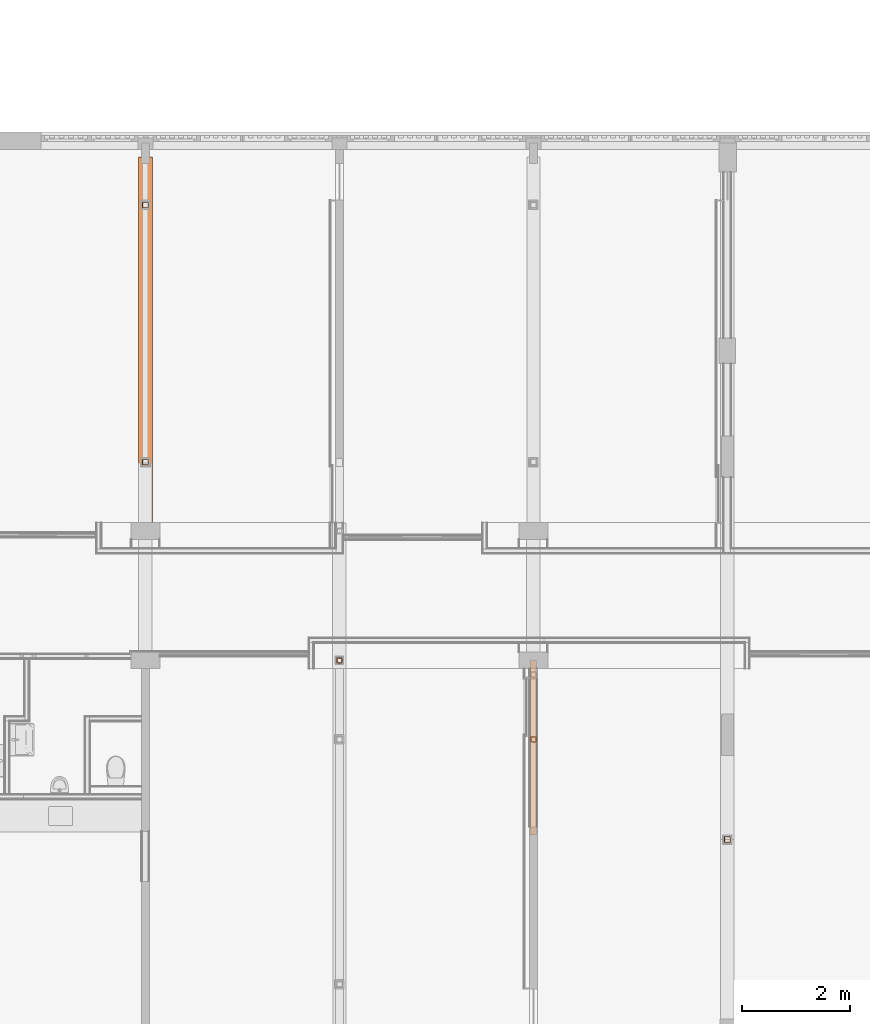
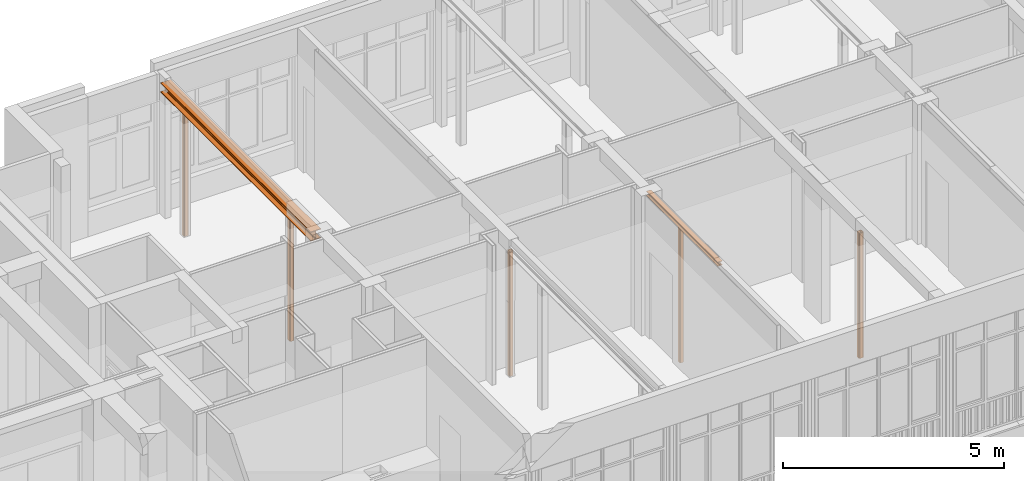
# One storey, part 123 of 135: 7 proxies.
"""IFC2X3 building model written with IfcOpenShell, lengths in millimetres."""

from ifc_helpers import new_model, entity, si_unit, converted_unit, derived_unit, money_unit, direction, frame, origin_with_axes, place, context, subcontext, project, spatial, faceted_brep, source, transform, mapped, material, type_object, type_shapes, element, save


model = new_model("IFC2X3")

# Units and contexts
model_context = context("Model", 3, precision=0.01, world=origin_with_axes(), true_north=direction((0.0, 1.0)))
body_context = subcontext(model_context, "Body", "Model", "MODEL_VIEW")
ifc_project = project(units=[si_unit("LENGTHUNIT", "METRE", prefix="MILLI"), si_unit("AREAUNIT", "SQUARE_METRE"), si_unit("VOLUMEUNIT", "CUBIC_METRE"), converted_unit("PLANEANGLEUNIT", "DEGREE", entity("IfcPlaneAngleMeasure", 0.0174532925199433), si_unit("PLANEANGLEUNIT", "RADIAN"), dimensions=[0, 0, 0, 0, 0, 0, 0]), money_unit("EUR"), converted_unit("TIMEUNIT", "Year", entity("IfcTimeMeasure", 31557600.0), si_unit("TIMEUNIT", "SECOND"), dimensions=[0, 0, 1, 0, 0, 0, 0]), si_unit("MASSUNIT", "GRAM", prefix="KILO"), si_unit("THERMODYNAMICTEMPERATUREUNIT", "DEGREE_CELSIUS"), si_unit("LUMINOUSINTENSITYUNIT", "LUMEN"), si_unit("ENERGYUNIT", "JOULE", prefix="MEGA"), derived_unit("THERMALCONDUCTANCEUNIT", [(si_unit("POWERUNIT", "WATT"), 1), (si_unit("LENGTHUNIT", "METRE"), -1), (si_unit("THERMODYNAMICTEMPERATUREUNIT", "KELVIN"), -1)]), derived_unit("SPECIFICHEATCAPACITYUNIT", [(si_unit("ENERGYUNIT", "JOULE"), 1), (si_unit("MASSUNIT", "GRAM", prefix="KILO"), -1), (si_unit("THERMODYNAMICTEMPERATUREUNIT", "KELVIN"), -1)]), derived_unit("MASSDENSITYUNIT", [(si_unit("MASSUNIT", "GRAM", prefix="KILO"), 1), (si_unit("VOLUMEUNIT", "CUBIC_METRE"), -1)])], contexts=[model_context])

# Site, building, storey
site_placement = place(None, origin_with_axes())
site = spatial("IfcSite", under=ifc_project, at=site_placement, Name="Site", CompositionType="ELEMENT")
building_placement = place(site_placement, origin_with_axes())
building = spatial("IfcBuilding", under=site, at=building_placement, Name="Naam gebouw", CompositionType="ELEMENT")
storey_placement = place(building_placement, origin_with_axes())
storey = spatial("IfcBuildingStorey", under=building, at=storey_placement, Name="Begane grond N", CompositionType="ELEMENT", Elevation=0.0)

# Proxies
ifc_material = material(Name="Metaal - Staal AFW")
building_element_proxy_type_1 = type_object("IfcBuildingElementProxyType", Name="Buis vk warmgew kolom 27", PredefinedType="NOTDEFINED")
shared_shape_1 = source(origin_with_axes(), body_context, "Body", "Brep", [
    faceted_brep([(34.0, -50.0, 0.0), (34.0, -50.0, 3439.999999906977), (-34.0, -50.0, 3439.999999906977), (-34.0, -50.0, 0.0), (45.31370849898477, -45.31370849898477, 0.0), (45.31370849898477, -45.31370849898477, 3439.999999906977), (50.0, -34.0, 3439.999999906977), (50.0, 34.0, 3439.999999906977), (45.31370849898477, 45.31370849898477, 3439.999999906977), (34.0, 50.0, 3439.999999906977), (-34.0, 50.0, 3439.999999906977), (-45.31370849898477, 45.31370849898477, 3439.999999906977), (-50.0, 34.0, 3439.999999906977), (-50.0, -34.0, 3439.999999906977), (-45.31370849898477, -45.31370849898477, 3439.999999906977), (34.00000000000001, -41.99999999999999, 3439.999999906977), (-34.0, -42.0, 3439.999999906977), (-39.65685424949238, -39.65685424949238, 3439.999999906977), (-41.99999999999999, -34.00000000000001, 3439.999999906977), (-42.0, 34.0, 3439.999999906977), (-39.65685424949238, 39.65685424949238, 3439.999999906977), (-34.00000000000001, 41.99999999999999, 3439.999999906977), (34.0, 42.0, 3439.999999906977), (39.65685424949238, 39.65685424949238, 3439.999999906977), (41.99999999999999, 34.00000000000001, 3439.999999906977), (42.0, -34.0, 3439.999999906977), (39.65685424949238, -39.65685424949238, 3439.999999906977), (-45.31370849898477, -45.31370849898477, 0.0), (-50.0, -34.0, 0.0), (-50.0, 34.0, 0.0), (-45.31370849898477, 45.31370849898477, 0.0), (-34.0, 50.0, 0.0), (34.0, 50.0, 0.0), (45.31370849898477, 45.31370849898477, 0.0), (50.0, 34.0, 0.0), (50.0, -34.0, 0.0), (34.00000000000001, -41.99999999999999, 0.0), (39.65685424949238, -39.65685424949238, 0.0), (42.0, -34.0, 0.0), (41.99999999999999, 34.00000000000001, 0.0), (39.65685424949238, 39.65685424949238, 0.0), (34.0, 42.0, 0.0), (-34.00000000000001, 41.99999999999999, 0.0), (-39.65685424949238, 39.65685424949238, 0.0), (-42.0, 34.0, 0.0), (-41.99999999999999, -34.00000000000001, 0.0), (-39.65685424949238, -39.65685424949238, 0.0), (-34.0, -42.0, 0.0)], [[[0, 1, 2, 3]], [[4, 5, 1, 0]], [[1, 5, 6, 7, 8, 9, 10, 11, 12, 13, 14, 2], [15, 16, 17, 18, 19, 20, 21, 22, 23, 24, 25, 26]], [[3, 2, 14, 27]], [[0, 3, 27, 28, 29, 30, 31, 32, 33, 34, 35, 4], [36, 37, 38, 39, 40, 41, 42, 43, 44, 45, 46, 47]], [[35, 6, 5, 4]], [[34, 7, 6, 35]], [[33, 8, 7, 34]], [[32, 9, 8, 33]], [[31, 10, 9, 32]], [[30, 11, 10, 31]], [[29, 12, 11, 30]], [[28, 13, 12, 29]], [[27, 14, 13, 28]], [[47, 16, 15, 36]], [[46, 17, 16, 47]], [[45, 18, 17, 46]], [[44, 19, 18, 45]], [[43, 20, 19, 44]], [[42, 21, 20, 43]], [[41, 22, 21, 42]], [[40, 23, 22, 41]], [[39, 24, 23, 40]], [[38, 25, 24, 39]], [[37, 26, 25, 38]], [[36, 15, 26, 37]]]),
])
proxy_1_placement = place(storey_placement, frame((39599.99999999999, 18025.91242510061, 0.0), z_axis=(0.0, 0.0, 1.0), x_axis=(0.0, -1.0, 0.0)))
element("IfcBuildingElementProxy", 1, at=proxy_1_placement, inside=storey, type_object=building_element_proxy_type_1, material=ifc_material, Name="_Boom-x", context=body_context, shape_type="MappedRepresentation", body=[
    mapped(shared_shape_1, transform((0.0, 0.0, 0.0))),
])
shared_shape_2 = source(origin_with_axes(), body_context, "Body", "Brep", [
    faceted_brep([(34.0, -50.0, 0.0), (34.0, -50.0, 3716.047681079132), (-34.0, -50.0, 3716.047681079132), (-34.0, -50.0, 0.0), (45.31370849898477, -45.31370849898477, 0.0), (45.31370849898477, -45.31370849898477, 3716.047681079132), (50.0, -34.0, 3716.047681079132), (50.0, 34.0, 3716.047681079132), (45.31370849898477, 45.31370849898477, 3716.047681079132), (34.0, 50.0, 3716.047681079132), (-34.0, 50.0, 3716.047681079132), (-45.31370849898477, 45.31370849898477, 3716.047681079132), (-50.0, 34.0, 3716.047681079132), (-50.0, -34.0, 3716.047681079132), (-45.31370849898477, -45.31370849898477, 3716.047681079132), (34.00000000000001, -41.99999999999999, 3716.047681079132), (-34.0, -42.0, 3716.047681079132), (-39.65685424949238, -39.65685424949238, 3716.047681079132), (-41.99999999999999, -34.00000000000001, 3716.047681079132), (-42.0, 34.0, 3716.047681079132), (-39.65685424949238, 39.65685424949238, 3716.047681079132), (-34.00000000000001, 41.99999999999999, 3716.047681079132), (34.0, 42.0, 3716.047681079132), (39.65685424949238, 39.65685424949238, 3716.047681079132), (41.99999999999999, 34.00000000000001, 3716.047681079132), (42.0, -34.0, 3716.047681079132), (39.65685424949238, -39.65685424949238, 3716.047681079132), (-45.31370849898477, -45.31370849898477, 0.0), (-50.0, -34.0, 0.0), (-50.0, 34.0, 0.0), (-45.31370849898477, 45.31370849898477, 0.0), (-34.0, 50.0, 0.0), (34.0, 50.0, 0.0), (45.31370849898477, 45.31370849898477, 0.0), (50.0, 34.0, 0.0), (50.0, -34.0, 0.0), (34.00000000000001, -41.99999999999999, 0.0), (39.65685424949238, -39.65685424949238, 0.0), (42.0, -34.0, 0.0), (41.99999999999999, 34.00000000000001, 0.0), (39.65685424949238, 39.65685424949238, 0.0), (34.0, 42.0, 0.0), (-34.00000000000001, 41.99999999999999, 0.0), (-39.65685424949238, 39.65685424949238, 0.0), (-42.0, 34.0, 0.0), (-41.99999999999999, -34.00000000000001, 0.0), (-39.65685424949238, -39.65685424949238, 0.0), (-34.0, -42.0, 0.0)], [[[0, 1, 2, 3]], [[4, 5, 1, 0]], [[1, 5, 6, 7, 8, 9, 10, 11, 12, 13, 14, 2], [15, 16, 17, 18, 19, 20, 21, 22, 23, 24, 25, 26]], [[3, 2, 14, 27]], [[0, 3, 27, 28, 29, 30, 31, 32, 33, 34, 35, 4], [36, 37, 38, 39, 40, 41, 42, 43, 44, 45, 46, 47]], [[35, 6, 5, 4]], [[34, 7, 6, 35]], [[33, 8, 7, 34]], [[32, 9, 8, 33]], [[31, 10, 9, 32]], [[30, 11, 10, 31]], [[29, 12, 11, 30]], [[28, 13, 12, 29]], [[27, 14, 13, 28]], [[47, 16, 15, 36]], [[46, 17, 16, 47]], [[45, 18, 17, 46]], [[44, 19, 18, 45]], [[43, 20, 19, 44]], [[42, 21, 20, 43]], [[41, 22, 21, 42]], [[40, 23, 22, 41]], [[39, 24, 23, 40]], [[38, 25, 24, 39]], [[37, 26, 25, 38]], [[36, 15, 26, 37]]]),
])
proxy_2_placement = place(storey_placement, frame((43200.0, 16560.91242510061, 0.0), z_axis=(0.0, 0.0, 1.0), x_axis=(0.0, -1.0, 0.0)))
element("IfcBuildingElementProxy", 2, at=proxy_2_placement, inside=storey, type_object=building_element_proxy_type_1, material=ifc_material, Name="_Boom-x", context=body_context, shape_type="MappedRepresentation", body=[
    mapped(shared_shape_2, transform((0.0, 0.0, 0.0))),
])
shared_shape_3 = source(origin_with_axes(), body_context, "Body", "Brep", [
    faceted_brep([(39.99999999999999, -60.0, 0.0), (39.99999999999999, -60.0, 3450.000000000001), (-39.99999999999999, -60.0, 3450.000000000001), (-39.99999999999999, -60.0, 0.0), (54.14213562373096, -54.14213562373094, 0.0), (54.14213562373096, -54.14213562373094, 3450.000000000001), (60.0, -39.99999999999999, 3450.000000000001), (60.0, 39.99999999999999, 3450.000000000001), (54.14213562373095, 54.14213562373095, 3450.000000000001), (39.99999999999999, 60.0, 3450.000000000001), (-39.99999999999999, 60.0, 3450.000000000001), (-54.14213562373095, 54.14213562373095, 3450.000000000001), (-60.0, 39.99999999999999, 3450.000000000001), (-60.0, -39.99999999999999, 3450.000000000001), (-54.14213562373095, -54.14213562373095, 3450.000000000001), (40.0, -49.99999999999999, 3450.000000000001), (-39.99999999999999, -49.99999999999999, 3450.000000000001), (-47.07106781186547, -47.07106781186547, 3450.000000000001), (-49.99999999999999, -40.0, 3450.000000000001), (-49.99999999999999, 39.99999999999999, 3450.000000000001), (-47.07106781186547, 47.07106781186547, 3450.000000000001), (-40.0, 49.99999999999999, 3450.000000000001), (39.99999999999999, 49.99999999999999, 3450.000000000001), (47.07106781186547, 47.07106781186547, 3450.000000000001), (49.99999999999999, 40.0, 3450.000000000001), (49.99999999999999, -39.99999999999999, 3450.000000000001), (47.07106781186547, -47.07106781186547, 3450.000000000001), (-54.14213562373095, -54.14213562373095, 0.0), (-60.0, -39.99999999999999, 0.0), (-60.0, 39.99999999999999, 0.0), (-54.14213562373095, 54.14213562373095, 0.0), (-39.99999999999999, 60.0, 0.0), (39.99999999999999, 60.0, 0.0), (54.14213562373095, 54.14213562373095, 0.0), (60.0, 39.99999999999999, 0.0), (60.0, -39.99999999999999, 0.0), (40.0, -49.99999999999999, 0.0), (47.07106781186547, -47.07106781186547, 0.0), (49.99999999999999, -39.99999999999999, 0.0), (49.99999999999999, 40.0, 0.0), (47.07106781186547, 47.07106781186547, 0.0), (39.99999999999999, 49.99999999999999, 0.0), (-40.0, 49.99999999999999, 0.0), (-47.07106781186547, 47.07106781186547, 0.0), (-49.99999999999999, 39.99999999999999, 0.0), (-49.99999999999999, -40.0, 0.0), (-47.07106781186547, -47.07106781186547, 0.0), (-39.99999999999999, -49.99999999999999, 0.0)], [[[0, 1, 2, 3]], [[4, 5, 1, 0]], [[1, 5, 6, 7, 8, 9, 10, 11, 12, 13, 14, 2], [15, 16, 17, 18, 19, 20, 21, 22, 23, 24, 25, 26]], [[3, 2, 14, 27]], [[0, 3, 27, 28, 29, 30, 31, 32, 33, 34, 35, 4], [36, 37, 38, 39, 40, 41, 42, 43, 44, 45, 46, 47]], [[35, 6, 5, 4]], [[34, 7, 6, 35]], [[33, 8, 7, 34]], [[32, 9, 8, 33]], [[31, 10, 9, 32]], [[30, 11, 10, 31]], [[29, 12, 11, 30]], [[28, 13, 12, 29]], [[27, 14, 13, 28]], [[47, 16, 15, 36]], [[46, 17, 16, 47]], [[45, 18, 17, 46]], [[44, 19, 18, 45]], [[43, 20, 19, 44]], [[42, 21, 20, 43]], [[41, 22, 21, 42]], [[40, 23, 22, 41]], [[39, 24, 23, 40]], [[38, 25, 24, 39]], [[37, 26, 25, 38]], [[36, 15, 26, 37]]]),
])
proxy_3_placement = place(storey_placement, frame((46800.00000000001, 14699.30701541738, 0.0), z_axis=(0.0, 0.0, 1.0), x_axis=(0.0, -1.0, 0.0)))
element("IfcBuildingElementProxy", 3, at=proxy_3_placement, inside=storey, type_object=building_element_proxy_type_1, material=ifc_material, Name="_Boom-x", context=body_context, shape_type="MappedRepresentation", body=[
    mapped(shared_shape_3, transform((0.0, 0.0, 0.0))),
])
building_element_proxy_type_2 = type_object("IfcBuildingElementProxyType", Name="HEB balk 27", PredefinedType="NOTDEFINED")
shared_shape_4 = source(origin_with_axes(), body_context, "Body", "Brep", [
    faceted_brep([(0.0, -130.0, 0.0), (-6785.0, -130.0000000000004, 0.0), (-6785.0, 129.9999999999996, 0.0), (0.0, 130.0, 0.0), (0.0, -130.0, 17.5), (-6785.0, -130.0000000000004, 17.50000000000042), (-6785.0, -29.00000000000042, 17.50000000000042), (-6785.0, -17.00000000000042, 20.71539030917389), (-6785.0, -8.21539030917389, 29.50000000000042), (-6785.0, -5.000000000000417, 41.50000000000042), (-6785.0, -5.000000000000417, 218.5000000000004), (-6785.0, -8.215390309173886, 230.5000000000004), (-6785.0, -17.00000000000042, 239.284609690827), (-6785.0, -29.00000000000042, 242.5000000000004), (-6785.0, -130.0000000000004, 242.5000000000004), (-6785.0, -130.0000000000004, 260.0000000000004), (-6785.0, 129.9999999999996, 260.0000000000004), (-6785.0, 129.9999999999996, 242.5000000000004), (-6785.0, 28.99999999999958, 242.5000000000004), (-6785.0, 16.99999999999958, 239.284609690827), (-6785.0, 8.215390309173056, 230.5000000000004), (-6785.0, 4.999999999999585, 218.5000000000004), (-6785.0, 4.999999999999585, 41.50000000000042), (-6785.0, 8.21539030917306, 29.50000000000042), (-6785.0, 16.99999999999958, 20.71539030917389), (-6785.0, 28.99999999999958, 17.50000000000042), (-6785.0, 129.9999999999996, 17.50000000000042), (0.0, 130.0, 17.5), (0.0, 29.0, 17.5), (0.0, 17.0, 20.71539030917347), (0.0, 8.215390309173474, 29.5), (0.0, 5.000000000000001, 41.5), (0.0, 5.000000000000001, 218.5), (0.0, 8.215390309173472, 230.5), (0.0, 17.0, 239.2846096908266), (0.0, 29.0, 242.5), (0.0, 130.0, 242.5), (0.0, 130.0, 260.0), (0.0, -130.0, 260.0), (0.0, -130.0, 242.5), (0.0, -29.0, 242.5), (0.0, -17.0, 239.2846096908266), (0.0, -8.215390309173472, 230.5), (0.0, -5.000000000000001, 218.5), (0.0, -5.000000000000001, 41.5), (0.0, -8.215390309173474, 29.5), (0.0, -17.0, 20.71539030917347), (0.0, -29.0, 17.5)], [[[0, 1, 2, 3]], [[4, 5, 1, 0]], [[1, 5, 6, 7, 8, 9, 10, 11, 12, 13, 14, 15, 16, 17, 18, 19, 20, 21, 22, 23, 24, 25, 26, 2]], [[3, 2, 26, 27]], [[0, 3, 27, 28, 29, 30, 31, 32, 33, 34, 35, 36, 37, 38, 39, 40, 41, 42, 43, 44, 45, 46, 47, 4]], [[47, 6, 5, 4]], [[46, 7, 6, 47]], [[45, 8, 7, 46]], [[44, 9, 8, 45]], [[43, 10, 9, 44]], [[42, 11, 10, 43]], [[41, 12, 11, 42]], [[40, 13, 12, 41]], [[39, 14, 13, 40]], [[38, 15, 14, 39]], [[37, 16, 15, 38]], [[36, 17, 16, 37]], [[35, 18, 17, 36]], [[34, 19, 18, 35]], [[33, 20, 19, 34]], [[32, 21, 20, 33]], [[31, 22, 21, 32]], [[30, 23, 22, 31]], [[29, 24, 23, 30]], [[28, 25, 24, 29]], [[27, 26, 25, 28]]]),
])
type_shapes(building_element_proxy_type_2, [shared_shape_4])
proxy_4_placement = place(storey_placement, frame((35999.99999999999, 20580.91242510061, 3439.999999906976), z_axis=(0.0, 0.0, 1.0), x_axis=(0.0, -1.0, 0.0)))
element("IfcBuildingElementProxy", 4, at=proxy_4_placement, inside=storey, type_object=building_element_proxy_type_2, material=ifc_material, Name="_Boom-x", context=body_context, shape_type="MappedRepresentation", body=[
    mapped(shared_shape_4, transform((0.0, 0.0, 0.0))),
])
building_element_proxy_type_3 = type_object("IfcBuildingElementProxyType", Name="HEA balk 27", PredefinedType="NOTDEFINED")
shared_shape_5 = source(origin_with_axes(), body_context, "Body", "Brep", [
    faceted_brep([(0.0, -60.0, 0.0), (-3234.000000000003, -60.0000000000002, 0.0), (-3234.000000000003, 59.99999999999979, 0.0), (0.0, 60.0, 0.0), (0.0, -60.0, 8.0), (-3234.000000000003, -60.0000000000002, 8.000000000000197), (-3234.000000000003, -14.5000000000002, 8.000000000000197), (-3234.000000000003, -8.500000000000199, 9.607695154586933), (-3234.000000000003, -4.107695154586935, 14.0000000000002), (-3234.000000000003, -2.500000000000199, 20.0000000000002), (-3234.000000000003, -2.500000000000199, 94.00000000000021), (-3234.000000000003, -4.107695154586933, 100.0000000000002), (-3234.000000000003, -8.500000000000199, 104.3923048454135), (-3234.000000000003, -14.5000000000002, 106.0000000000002), (-3234.000000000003, -60.0000000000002, 106.0000000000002), (-3234.000000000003, -60.0000000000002, 114.0000000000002), (-3234.000000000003, 59.99999999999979, 114.0000000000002), (-3234.000000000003, 59.99999999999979, 106.0000000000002), (-3234.000000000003, 14.4999999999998, 106.0000000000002), (-3234.000000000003, 8.499999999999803, 104.3923048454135), (-3234.000000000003, 4.107695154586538, 100.0000000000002), (-3234.000000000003, 2.499999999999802, 94.00000000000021), (-3234.000000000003, 2.499999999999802, 20.0000000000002), (-3234.000000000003, 4.10769515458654, 14.0000000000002), (-3234.000000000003, 8.499999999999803, 9.607695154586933), (-3234.000000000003, 14.4999999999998, 8.000000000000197), (-3234.000000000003, 59.99999999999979, 8.000000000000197), (0.0, 60.0, 8.0), (0.0, 14.5, 8.0), (0.0, 8.5, 9.607695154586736), (0.0, 4.107695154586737, 14.0), (0.0, 2.5, 20.0), (0.0, 2.5, 94.00000000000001), (0.0, 4.107695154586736, 100.0), (0.0, 8.5, 104.3923048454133), (0.0, 14.5, 106.0), (0.0, 60.0, 106.0), (0.0, 60.0, 114.0), (0.0, -60.0, 114.0), (0.0, -60.0, 106.0), (0.0, -14.5, 106.0), (0.0, -8.5, 104.3923048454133), (0.0, -4.107695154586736, 100.0), (0.0, -2.5, 94.00000000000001), (0.0, -2.5, 20.0), (0.0, -4.107695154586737, 14.0), (0.0, -8.5, 9.607695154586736), (0.0, -14.5, 8.0)], [[[0, 1, 2, 3]], [[4, 5, 1, 0]], [[1, 5, 6, 7, 8, 9, 10, 11, 12, 13, 14, 15, 16, 17, 18, 19, 20, 21, 22, 23, 24, 25, 26, 2]], [[3, 2, 26, 27]], [[0, 3, 27, 28, 29, 30, 31, 32, 33, 34, 35, 36, 37, 38, 39, 40, 41, 42, 43, 44, 45, 46, 47, 4]], [[47, 6, 5, 4]], [[46, 7, 6, 47]], [[45, 8, 7, 46]], [[44, 9, 8, 45]], [[43, 10, 9, 44]], [[42, 11, 10, 43]], [[41, 12, 11, 42]], [[40, 13, 12, 41]], [[39, 14, 13, 40]], [[38, 15, 14, 39]], [[37, 16, 15, 38]], [[36, 17, 16, 37]], [[35, 18, 17, 36]], [[34, 19, 18, 35]], [[33, 20, 19, 34]], [[32, 21, 20, 33]], [[31, 22, 21, 32]], [[30, 23, 22, 31]], [[29, 24, 23, 30]], [[28, 25, 24, 29]], [[27, 26, 25, 28]]]),
])
type_shapes(building_element_proxy_type_3, [shared_shape_5])
proxy_5_placement = place(storey_placement, frame((43200.0, 14786.9124251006, 3716.047681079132), z_axis=(0.0, 0.0, 1.0), x_axis=(0.0, -1.0, 0.0)))
element("IfcBuildingElementProxy", 5, at=proxy_5_placement, inside=storey, type_object=building_element_proxy_type_3, material=ifc_material, Name="_Boom-x", context=body_context, shape_type="MappedRepresentation", body=[
    mapped(shared_shape_5, transform((0.0, 0.0, 0.0))),
])
shared_shape_6 = source(origin_with_axes(), body_context, "Body", "Brep", [
    faceted_brep([(39.99999999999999, -60.0, 0.0), (39.99999999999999, -60.0, 3439.999999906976), (-39.99999999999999, -60.0, 3439.999999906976), (-39.99999999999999, -60.0, 0.0), (54.14213562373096, -54.14213562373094, 0.0), (54.14213562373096, -54.14213562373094, 3439.999999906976), (60.0, -39.99999999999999, 3439.999999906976), (60.0, 39.99999999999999, 3439.999999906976), (54.14213562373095, 54.14213562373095, 3439.999999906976), (39.99999999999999, 60.0, 3439.999999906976), (-39.99999999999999, 60.0, 3439.999999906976), (-54.14213562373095, 54.14213562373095, 3439.999999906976), (-60.0, 39.99999999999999, 3439.999999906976), (-60.0, -39.99999999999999, 3439.999999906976), (-54.14213562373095, -54.14213562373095, 3439.999999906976), (40.0, -49.99999999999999, 3439.999999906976), (-39.99999999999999, -49.99999999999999, 3439.999999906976), (-47.07106781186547, -47.07106781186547, 3439.999999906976), (-49.99999999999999, -40.0, 3439.999999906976), (-49.99999999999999, 39.99999999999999, 3439.999999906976), (-47.07106781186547, 47.07106781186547, 3439.999999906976), (-40.0, 49.99999999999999, 3439.999999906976), (39.99999999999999, 49.99999999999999, 3439.999999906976), (47.07106781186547, 47.07106781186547, 3439.999999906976), (49.99999999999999, 40.0, 3439.999999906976), (49.99999999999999, -39.99999999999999, 3439.999999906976), (47.07106781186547, -47.07106781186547, 3439.999999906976), (-54.14213562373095, -54.14213562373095, 0.0), (-60.0, -39.99999999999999, 0.0), (-60.0, 39.99999999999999, 0.0), (-54.14213562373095, 54.14213562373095, 0.0), (-39.99999999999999, 60.0, 0.0), (39.99999999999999, 60.0, 0.0), (54.14213562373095, 54.14213562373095, 0.0), (60.0, 39.99999999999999, 0.0), (60.0, -39.99999999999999, 0.0), (40.0, -49.99999999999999, 0.0), (47.07106781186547, -47.07106781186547, 0.0), (49.99999999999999, -39.99999999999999, 0.0), (49.99999999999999, 40.0, 0.0), (47.07106781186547, 47.07106781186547, 0.0), (39.99999999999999, 49.99999999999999, 0.0), (-40.0, 49.99999999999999, 0.0), (-47.07106781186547, 47.07106781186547, 0.0), (-49.99999999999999, 39.99999999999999, 0.0), (-49.99999999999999, -40.0, 0.0), (-47.07106781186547, -47.07106781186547, 0.0), (-39.99999999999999, -49.99999999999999, 0.0)], [[[0, 1, 2, 3]], [[4, 5, 1, 0]], [[1, 5, 6, 7, 8, 9, 10, 11, 12, 13, 14, 2], [15, 16, 17, 18, 19, 20, 21, 22, 23, 24, 25, 26]], [[3, 2, 14, 27]], [[0, 3, 27, 28, 29, 30, 31, 32, 33, 34, 35, 4], [36, 37, 38, 39, 40, 41, 42, 43, 44, 45, 46, 47]], [[35, 6, 5, 4]], [[34, 7, 6, 35]], [[33, 8, 7, 34]], [[32, 9, 8, 33]], [[31, 10, 9, 32]], [[30, 11, 10, 31]], [[29, 12, 11, 30]], [[28, 13, 12, 29]], [[27, 14, 13, 28]], [[47, 16, 15, 36]], [[46, 17, 16, 47]], [[45, 18, 17, 46]], [[44, 19, 18, 45]], [[43, 20, 19, 44]], [[42, 21, 20, 43]], [[41, 22, 21, 42]], [[40, 23, 22, 41]], [[39, 24, 23, 40]], [[38, 25, 24, 39]], [[37, 26, 25, 38]], [[36, 15, 26, 37]]]),
])
type_shapes(building_element_proxy_type_1, [shared_shape_1, shared_shape_2, shared_shape_3, shared_shape_6])
for number, where, z_axis, x_axis, name in (
    (6, (36000.0, 26480.91242510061, 0.0), (0.0, 0.0, 1.0), (0.0, -1.0, 0.0), "_Boom-x"),
    (7, (36000.0, 21705.91242510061, 0.0), (0.0, 0.0, 1.0), (0.0, -1.0, 0.0), "_Boom-x"),
):
    element("IfcBuildingElementProxy", number, at=place(storey_placement, frame(where, z_axis=z_axis, x_axis=x_axis)), inside=storey, type_object=building_element_proxy_type_1, material=ifc_material, Name=name, context=body_context, shape_type="MappedRepresentation", body=[
        mapped(shared_shape_6, transform((0.0, 0.0, 0.0))),
    ])

save(model, "model.ifc")
